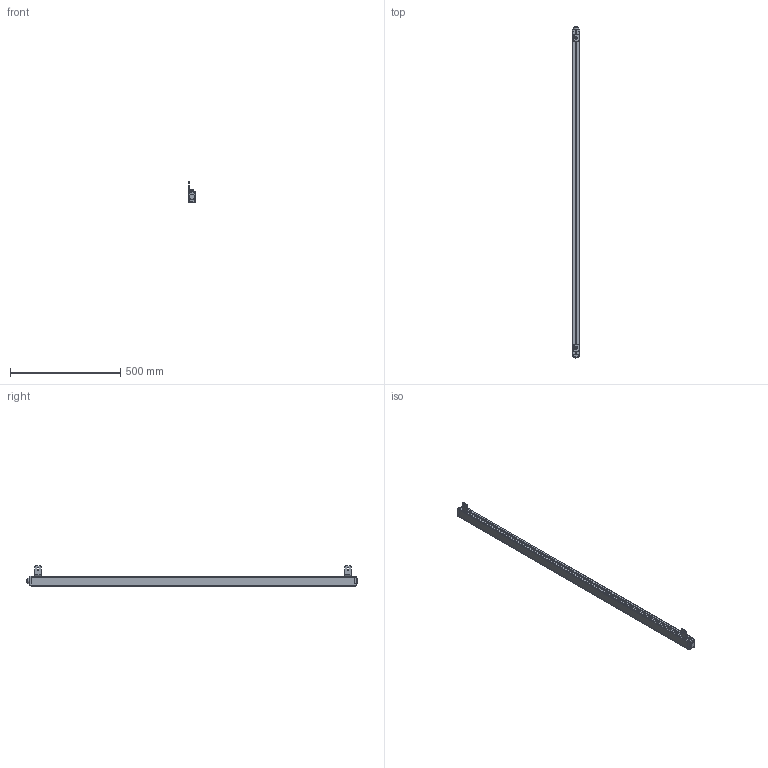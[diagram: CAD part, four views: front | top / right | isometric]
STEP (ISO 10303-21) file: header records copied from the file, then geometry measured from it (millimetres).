
FILE_DESCRIPTION((''),'2;1');
FILE_NAME('ESCL-00_ASM','2021-07-17T11:10:37',('18720616900'),(''),'CREO PARAMETRIC BY PTC INC, 2019010','CREO PARAMETRIC BY PTC INC, 2019010','');
FILE_SCHEMA(('CONFIG_CONTROL_DESIGN'));
Products named in the file (12): ESCL-00; ESCL-3-SOLID1000; ESCL-4-SOLID1000; HKCT1_-4-SOLID1; L10001; M6-8--0001; M6-1--00; M6-1-00; 00; M6-80001_ASM; L1--0001_ASM; ESCL-00_ASM
Assembly tree (12 placements, depth 4):
  ESCL-00_ASM
    ESCL-00
    ESCL-3-SOLID1000
    ESCL-4-SOLID1000
    HKCT1_-4-SOLID1
    L1--0001_ASM  x2
      L10001
      M6-80001_ASM
        M6-8--0001
        M6-1--00
        M6-1-00
        00
Bounding box: 36.1 x 1505.1 x 91.11 mm (x, y, z)
Volume: 2151492.9 mm3; surface area: 315757.6 mm2
Topology: 14 solids, 14 shells, 625 faces, 1645 edges, 1070 vertices
Faces by surface type: plane 226, cylinder 208, cone 78, bspline 66, torus 47
Entity records: 76177 total; most frequent: CARTESIAN_POINT 63991, ORIENTED_EDGE 2664, DIRECTION 2275, EDGE_CURVE 1332, VERTEX_POINT 872, AXIS2_PLACEMENT_3D 816, VECTOR 643, LINE 643
